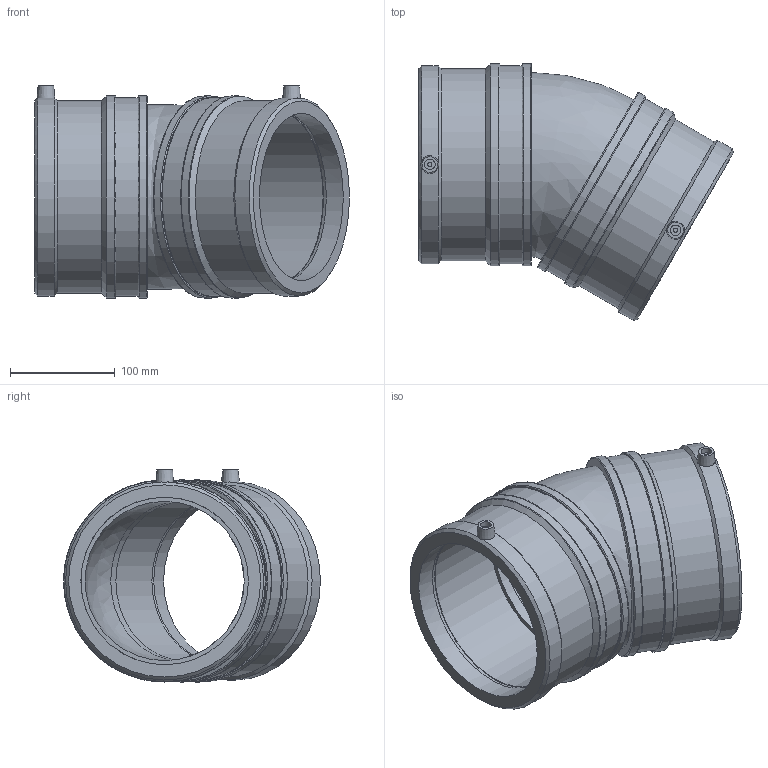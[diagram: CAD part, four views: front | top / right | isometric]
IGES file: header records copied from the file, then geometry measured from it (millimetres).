
Global section: file name: 463304160_473304160.ipt; native system: Autodesk Inventor 2015; preprocessor: unknown; author: KIM; date: 20171106.093450; units: millimetre
Bounding box: 300.58 x 245.23 x 202.5 mm (x, y, z)
Volume: 1998229.5 mm3; surface area: 330273.7 mm2
Topology: 1 solids, 1 shells, 60 faces, 138 edges, 94 vertices
Faces by surface type: revolution 20, plane 18, cylinder 12, cone 10
Full cylindrical faces by diameter (mm): 4 x2, 183.466 x2, 189.14 x2, 193 x4
